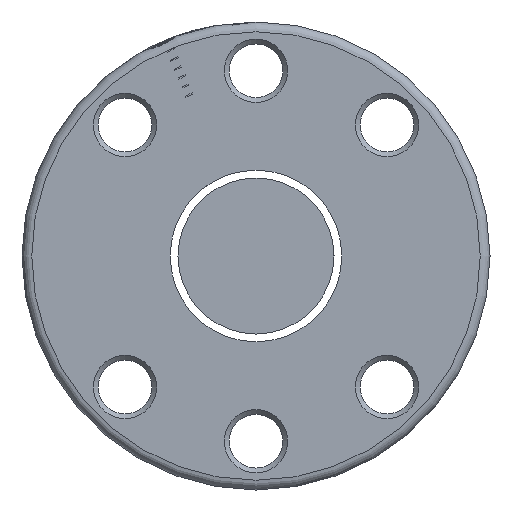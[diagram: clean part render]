
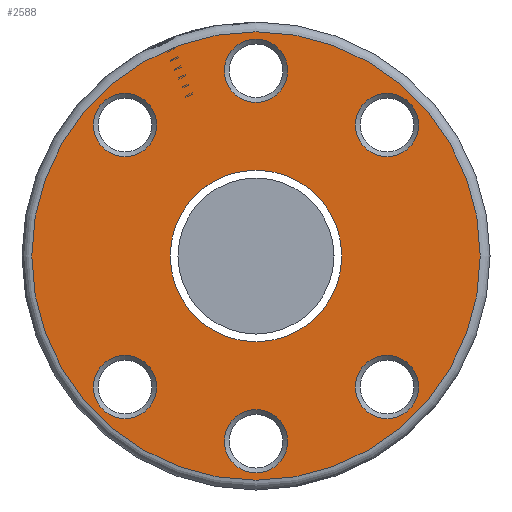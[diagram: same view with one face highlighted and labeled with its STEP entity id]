
A CAD part, left-side view. The second image highlights one B-rep face of the part: STEP entity #2588.
In plain terms, the highlighted planar face has unit normal (-1, 0, 0).
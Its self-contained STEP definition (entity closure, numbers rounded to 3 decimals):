
#19 = CARTESIAN_POINT ( 'NONE',  ( -40., -13.435, -13.435 ) ) ;
#52 = AXIS2_PLACEMENT_3D ( 'NONE', #19, #1035, #2016 ) ;
#102 = PLANE ( 'NONE',  #851 ) ;
#112 = DIRECTION ( 'NONE',  ( 1., 0., 0. ) ) ;
#130 = CARTESIAN_POINT ( 'NONE',  ( -40., 0., -23. ) ) ;
#137 = DIRECTION ( 'NONE',  ( 0., 0., -1. ) ) ;
#140 = DIRECTION ( 'NONE',  ( 1., 0., 0. ) ) ;
#177 = AXIS2_PLACEMENT_3D ( 'NONE', #394, #1887, #1375 ) ;
#378 = AXIS2_PLACEMENT_3D ( 'NONE', #2100, #1856, #137 ) ;
#394 = CARTESIAN_POINT ( 'NONE',  ( -40., 13.435, 13.435 ) ) ;
#403 = FACE_BOUND ( 'NONE', #861, .T. ) ;
#414 = DIRECTION ( 'NONE',  ( 1., 0., 0. ) ) ;
#491 = CIRCLE ( 'NONE', #1322, 3.25 ) ;
#492 = CARTESIAN_POINT ( 'NONE',  ( -40., 13.435, -16.685 ) ) ;
#552 = EDGE_CURVE ( 'NONE', #3073, #3073, #1212, .T. ) ;
#567 = EDGE_LOOP ( 'NONE', ( #1382 ) ) ;
#583 = ORIENTED_EDGE ( 'NONE', *, *, #676, .T. ) ;
#676 = EDGE_CURVE ( 'NONE', #1457, #1457, #1875, .T. ) ;
#700 = AXIS2_PLACEMENT_3D ( 'NONE', #1121, #1638, #1619 ) ;
#781 = CARTESIAN_POINT ( 'NONE',  ( -40., 0., 8.8 ) ) ;
#813 = CARTESIAN_POINT ( 'NONE',  ( -40., -13.435, 10.185 ) ) ;
#851 = AXIS2_PLACEMENT_3D ( 'NONE', #2627, #1622, #3102 ) ;
#861 = EDGE_LOOP ( 'NONE', ( #1559 ) ) ;
#871 = EDGE_CURVE ( 'NONE', #1722, #1722, #2710, .T. ) ;
#885 = DIRECTION ( 'NONE',  ( 0., 0., 1. ) ) ;
#890 = AXIS2_PLACEMENT_3D ( 'NONE', #2326, #112, #1600 ) ;
#968 = VERTEX_POINT ( 'NONE', #1709 ) ;
#1016 = AXIS2_PLACEMENT_3D ( 'NONE', #2068, #140, #1403 ) ;
#1019 = EDGE_CURVE ( 'NONE', #968, #968, #1937, .T. ) ;
#1035 = DIRECTION ( 'NONE',  ( 1., 0., 0. ) ) ;
#1040 = CARTESIAN_POINT ( 'NONE',  ( -40., 13.435, 10.185 ) ) ;
#1121 = CARTESIAN_POINT ( 'NONE',  ( -40., 0., 19. ) ) ;
#1126 = ORIENTED_EDGE ( 'NONE', *, *, #1680, .T. ) ;
#1138 = ORIENTED_EDGE ( 'NONE', *, *, #1019, .T. ) ;
#1212 = CIRCLE ( 'NONE', #52, 3.25 ) ;
#1215 = EDGE_CURVE ( 'NONE', #2857, #2857, #491, .T. ) ;
#1322 = AXIS2_PLACEMENT_3D ( 'NONE', #2203, #414, #1448 ) ;
#1367 = FACE_BOUND ( 'NONE', #2849, .T. ) ;
#1375 = DIRECTION ( 'NONE',  ( 0., 0., -1. ) ) ;
#1382 = ORIENTED_EDGE ( 'NONE', *, *, #552, .T. ) ;
#1394 = DIRECTION ( 'NONE',  ( -1., 0., 0. ) ) ;
#1403 = DIRECTION ( 'NONE',  ( 0., 0., -1. ) ) ;
#1448 = DIRECTION ( 'NONE',  ( 0., 0., -1. ) ) ;
#1457 = VERTEX_POINT ( 'NONE', #492 ) ;
#1559 = ORIENTED_EDGE ( 'NONE', *, *, #1215, .T. ) ;
#1579 = CIRCLE ( 'NONE', #177, 3.25 ) ;
#1600 = DIRECTION ( 'NONE',  ( 0., 0., -1. ) ) ;
#1606 = FACE_OUTER_BOUND ( 'NONE', #2605, .T. ) ;
#1619 = DIRECTION ( 'NONE',  ( 0., 0., -1. ) ) ;
#1622 = DIRECTION ( 'NONE',  ( 1., 0., 0. ) ) ;
#1638 = DIRECTION ( 'NONE',  ( 1., 0., 0. ) ) ;
#1641 = FACE_BOUND ( 'NONE', #2402, .T. ) ;
#1645 = ORIENTED_EDGE ( 'NONE', *, *, #871, .T. ) ;
#1680 = EDGE_CURVE ( 'NONE', #2022, #2022, #1579, .T. ) ;
#1691 = EDGE_CURVE ( 'NONE', #2038, #2038, #2870, .T. ) ;
#1709 = CARTESIAN_POINT ( 'NONE',  ( -40., 0., 15.75 ) ) ;
#1722 = VERTEX_POINT ( 'NONE', #130 ) ;
#1849 = CARTESIAN_POINT ( 'NONE',  ( -40., 0., 0. ) ) ;
#1856 = DIRECTION ( 'NONE',  ( -1., 0., 0. ) ) ;
#1875 = CIRCLE ( 'NONE', #890, 3.25 ) ;
#1887 = DIRECTION ( 'NONE',  ( 1., 0., 0. ) ) ;
#1901 = EDGE_LOOP ( 'NONE', ( #1126 ) ) ;
#1937 = CIRCLE ( 'NONE', #700, 3.25 ) ;
#2016 = DIRECTION ( 'NONE',  ( 0., 0., -1. ) ) ;
#2022 = VERTEX_POINT ( 'NONE', #1040 ) ;
#2038 = VERTEX_POINT ( 'NONE', #781 ) ;
#2068 = CARTESIAN_POINT ( 'NONE',  ( -40., -13.435, 13.435 ) ) ;
#2100 = CARTESIAN_POINT ( 'NONE',  ( -40., 0., 0. ) ) ;
#2161 = ORIENTED_EDGE ( 'NONE', *, *, #2457, .T. ) ;
#2203 = CARTESIAN_POINT ( 'NONE',  ( -40., 0., -19. ) ) ;
#2326 = CARTESIAN_POINT ( 'NONE',  ( -40., 13.435, -13.435 ) ) ;
#2368 = FACE_BOUND ( 'NONE', #2515, .T. ) ;
#2402 = EDGE_LOOP ( 'NONE', ( #3104 ) ) ;
#2410 = CIRCLE ( 'NONE', #1016, 3.25 ) ;
#2457 = EDGE_CURVE ( 'NONE', #2765, #2765, #2410, .T. ) ;
#2459 = AXIS2_PLACEMENT_3D ( 'NONE', #1849, #1394, #885 ) ;
#2470 = CARTESIAN_POINT ( 'NONE',  ( -40., 0., -22.25 ) ) ;
#2515 = EDGE_LOOP ( 'NONE', ( #1138 ) ) ;
#2588 = ADVANCED_FACE ( 'NONE', ( #1606, #3082, #2847, #403, #1367, #2865, #2368, #1641 ), #102, .F. ) ;
#2605 = EDGE_LOOP ( 'NONE', ( #1645 ) ) ;
#2627 = CARTESIAN_POINT ( 'NONE',  ( -40., 24., 0. ) ) ;
#2710 = CIRCLE ( 'NONE', #378, 23. ) ;
#2765 = VERTEX_POINT ( 'NONE', #813 ) ;
#2847 = FACE_BOUND ( 'NONE', #567, .T. ) ;
#2849 = EDGE_LOOP ( 'NONE', ( #583 ) ) ;
#2857 = VERTEX_POINT ( 'NONE', #2470 ) ;
#2865 = FACE_BOUND ( 'NONE', #1901, .T. ) ;
#2869 = EDGE_LOOP ( 'NONE', ( #2161 ) ) ;
#2870 = CIRCLE ( 'NONE', #2459, 8.8 ) ;
#2935 = CARTESIAN_POINT ( 'NONE',  ( -40., -13.435, -16.685 ) ) ;
#3073 = VERTEX_POINT ( 'NONE', #2935 ) ;
#3082 = FACE_BOUND ( 'NONE', #2869, .T. ) ;
#3102 = DIRECTION ( 'NONE',  ( 0., 0., -1. ) ) ;
#3104 = ORIENTED_EDGE ( 'NONE', *, *, #1691, .F. ) ;
